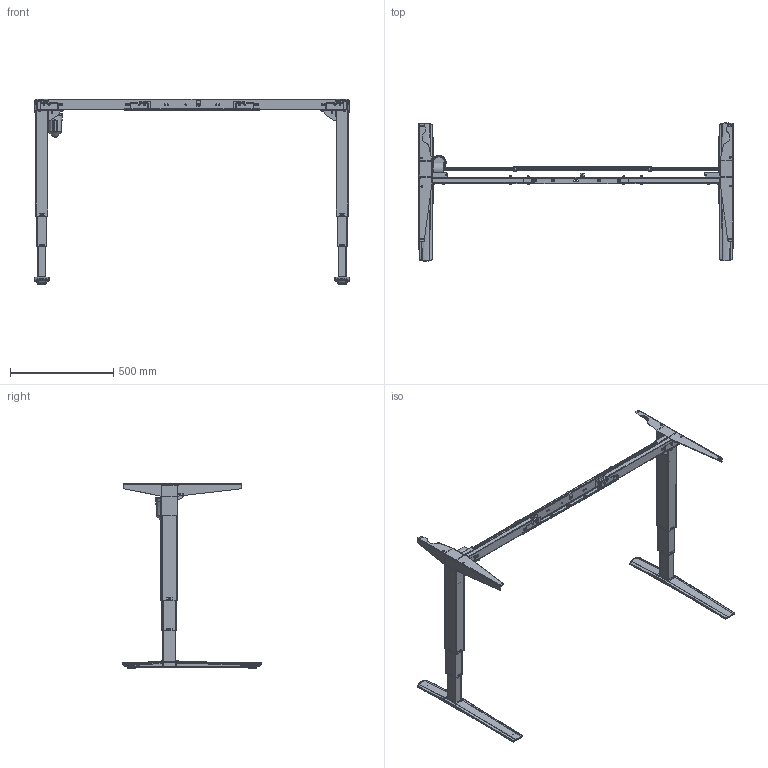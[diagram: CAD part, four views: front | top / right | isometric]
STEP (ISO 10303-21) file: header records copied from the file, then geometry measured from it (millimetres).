
FILE_DESCRIPTION (( 'STEP AP203' ), '1' );
FILE_NAME ('Tech-draw_501-43_XX132-172.STEP', '2019-09-25T11:18:57', ( '' ), ( '' ), 'SwSTEP 2.0', 'SolidWorks 2018', '' );
FILE_SCHEMA (( 'CONFIG_CONTROL_DESIGN' ));
Length unit declared in the file: millimetre
Products named in the file (46): 137810; 340440; 300490; 149460; 348720_shell view; 340450_shell view; 344560; 141060_silver; 332570; 148880_501-43 XS132-172; 344550; 340510_shell view; 344390; 343090; 134470_silver1; 137820_W5; 341800_silver; 343080; 134530_silver1; 141090_silver; 304650_silver; 340580; 343330; 343380; 340540_shell view; Tech-draw_501-43_XX132-172; 141070_silver; 141080_silver; 344270; 324520_silver; 340460_shell view; 141110_silver1; 134500_silver1; 345200; 324420; 344430_silver; 140340_L=152 travers; 340760_zinc; 343340; 141100_silver1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
Assembly tree (90 placements, depth 6):
  Tech-draw_501-43_XX132-172
    148880_501-43 XS132-172
      141070_silver
        134500_silver1
          340440
          340520_shell view
          348720_shell view
          344550
        141090_silver
          141110_silver1
            340460_shell view
            345190_shell view
            345200
          134530_silver1
            340450_shell view
          341800_silver  x4
        341800_silver  x4
        344430_silver
        324520_silver  x2
        352610
      141060_silver
        134470_silver1
          340970
          340510_shell view
          340540_shell view
          344560
        141080_silver
          141100_silver1
            340460_shell view
            345190_shell view
            345200
          134530_silver1
            340450_shell view
          341800_silver  x4
        341800_silver  x4
        324520_silver  x2
      340760  x4
      332570  x4
      149460
        137820_W5
          343340
          137810  x2
            343330
            340580
        140340_L=152 travers
          344270
          344280  x2
          343090  x2
          343080  x2
          324420  x2
          343380
        344390
        340760_zinc  x4
        304650_silver  x5
        300490  x5
Bounding box: 1527 x 669.85 x 895.2 mm (x, y, z)
Volume: 2737404.5 mm3; surface area: 3010902.4 mm2
Topology: 78 solids, 78 shells, 4652 faces, 12321 edges, 7905 vertices
Faces by surface type: plane 2598, cylinder 1429, bspline 475, cone 77, torus 73
Full cylindrical faces by diameter (mm): 2 x2, 2.8 x4, 3.3 x8, 4.6 x4, 5 x8, 5.5 x1, 6 x24, 6.5 x14, 7 x16, 7.4 x4, 7.6 x4, 8 x25, 8.05 x4, 8.4 x2, 10 x12, 12 x1, 13.4 x2, 15 x4, 16 x1, 17 x2, 17.2 x2, 20 x1, 23.2 x2, 37.6 x8, 60 x1
Entity records: 124317 total; most frequent: CARTESIAN_POINT 59763, ORIENTED_EDGE 12664, DIRECTION 11589, EDGE_CURVE 6332, AXIS2_PLACEMENT_3D 4178, VERTEX_POINT 4148, LINE 3233, VECTOR 3233
